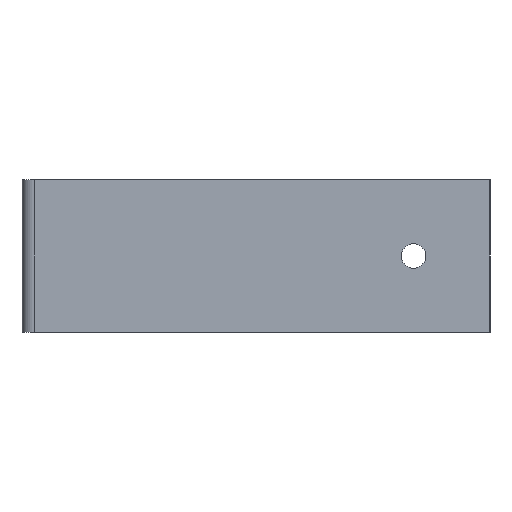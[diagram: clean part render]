
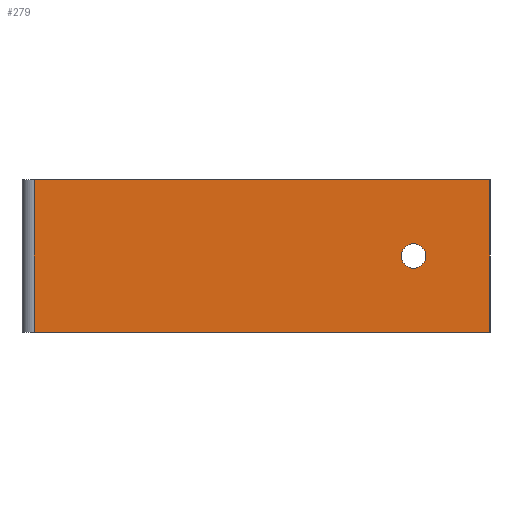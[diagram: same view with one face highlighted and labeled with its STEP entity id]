
A CAD part, left-side view. The second image highlights one B-rep face of the part: STEP entity #279.
In plain terms, the highlighted planar face has unit normal (-1, 0, 0).
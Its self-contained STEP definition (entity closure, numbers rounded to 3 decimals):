
#210=CARTESIAN_POINT('',(-95.,-2.,25.));
#211=VERTEX_POINT('',#210);
#220=CARTESIAN_POINT('',(-95.,-2.,0.));
#221=VERTEX_POINT('',#220);
#229=CARTESIAN_POINT('',(-95.,-2.,0.));
#230=DIRECTION('',(0.,0.,1.));
#231=VECTOR('',#230,250.);
#232=LINE('',#229,#231);
#233=EDGE_CURVE('',#221,#211,#232,.T.);
#238=CARTESIAN_POINT('',(-95.,-38.25,0.));
#239=DIRECTION('',(-1.,-0.,0.));
#240=DIRECTION('',(0.,-1.,0.));
#241=AXIS2_PLACEMENT_3D('',#238,#239,#240);
#242=PLANE('',#241);
#243=ORIENTED_EDGE('',*,*,#233,.F.);
#244=CARTESIAN_POINT('',(-95.,-76.5,0.));
#245=VERTEX_POINT('',#244);
#246=CARTESIAN_POINT('',(-95.,-76.5,0.));
#247=DIRECTION('',(-0.,1.,0.));
#248=VECTOR('',#247,745.);
#249=LINE('',#246,#248);
#250=EDGE_CURVE('',#245,#221,#249,.T.);
#251=ORIENTED_EDGE('',*,*,#250,.F.);
#252=CARTESIAN_POINT('',(-95.,-76.5,25.));
#253=VERTEX_POINT('',#252);
#254=CARTESIAN_POINT('',(-95.,-76.5,0.));
#255=DIRECTION('',(0.,0.,1.));
#256=VECTOR('',#255,250.);
#257=LINE('',#254,#256);
#258=EDGE_CURVE('',#245,#253,#257,.T.);
#259=ORIENTED_EDGE('',*,*,#258,.T.);
#260=CARTESIAN_POINT('',(-95.,-76.5,25.));
#261=DIRECTION('',(-0.,1.,0.));
#262=VECTOR('',#261,745.);
#263=LINE('',#260,#262);
#264=EDGE_CURVE('',#253,#211,#263,.T.);
#265=ORIENTED_EDGE('',*,*,#264,.T.);
#266=EDGE_LOOP('',(#243,#251,#259,#265));
#267=FACE_BOUND('',#266,.T.);
#268=CARTESIAN_POINT('',(-95.,-64.,14.5));
#269=VERTEX_POINT('',#268);
#270=CARTESIAN_POINT('',(-95.,-64.,12.5));
#271=DIRECTION('',(1.,0.,0.));
#272=DIRECTION('',(0.,0.,-1.));
#273=AXIS2_PLACEMENT_3D('',#270,#271,#272);
#274=CIRCLE('',#273,2.);
#275=EDGE_CURVE('',#269,#269,#274,.T.);
#276=ORIENTED_EDGE('',*,*,#275,.T.);
#277=EDGE_LOOP('',(#276));
#278=FACE_BOUND('',#277,.T.);
#279=ADVANCED_FACE('',(#267,#278),#242,.T.);
